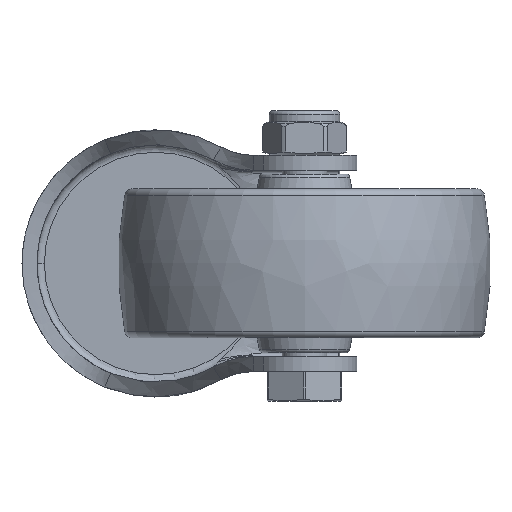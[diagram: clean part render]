
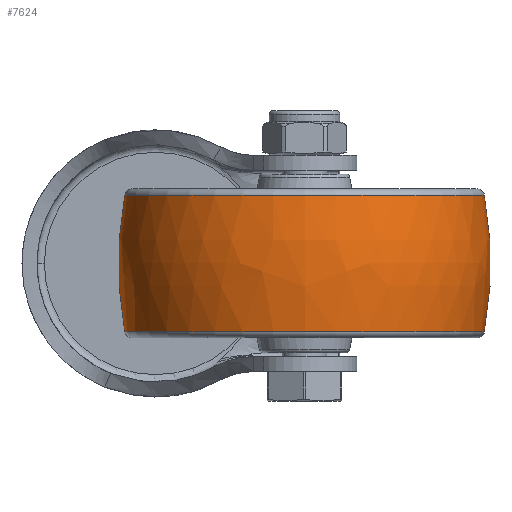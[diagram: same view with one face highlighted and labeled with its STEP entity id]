
A CAD part, front view. The second image highlights one B-rep face of the part: STEP entity #7624.
In plain terms, the highlighted free-form (B-spline) face has degree [3, 3] with [7, 4] control points.
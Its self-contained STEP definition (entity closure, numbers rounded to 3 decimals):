
#7250=CARTESIAN_POINT('',(0.,-25.,0.));
#7251=DIRECTION('',(0.,0.,1.));
#7252=DIRECTION('',(0.184,0.983,0.));
#7253=AXIS2_PLACEMENT_3D('',#7250,#7251,#7252);
#7255=CARTESIAN_POINT('',(0.,25.,0.));
#7256=DIRECTION('',(0.,0.,-1.));
#7257=DIRECTION('',(0.184,-0.983,0.));
#7258=AXIS2_PLACEMENT_3D('',#7255,#7256,#7257);
#7260=CARTESIAN_POINT('',(9.184,0.,0.));
#7261=DIRECTION('',(-1.,0.,0.));
#7262=DIRECTION('',(0.,1.,0.));
#7263=AXIS2_PLACEMENT_3D('',#7260,#7261,#7262);
#7285=CARTESIAN_POINT('',(-9.184,0.,0.));
#7286=DIRECTION('',(-1.,0.,0.));
#7287=DIRECTION('',(0.,1.,0.));
#7288=AXIS2_PLACEMENT_3D('',#7285,#7286,#7287);
#7425=CARTESIAN_POINT('',(9.184,24.149,0.));
#7427=VERTEX_POINT('',#7425);
#7428=CARTESIAN_POINT('',(-9.184,24.149,0.));
#7429=VERTEX_POINT('',#7428);
#7433=CARTESIAN_POINT('',(9.184,-24.149,0.));
#7435=VERTEX_POINT('',#7433);
#7436=CARTESIAN_POINT('',(-9.184,-24.149,0.));
#7437=VERTEX_POINT('',#7436);
#7586=CARTESIAN_POINT('',(-9.547,-24.033,
1.512));
#7587=CARTESIAN_POINT('',(-3.222,-25.26,
1.589));
#7588=CARTESIAN_POINT('',(3.222,-25.26,1.589));
#7589=CARTESIAN_POINT('',(9.547,-24.033,1.512));
#7590=CARTESIAN_POINT('',(-9.547,-24.963,
-13.278));
#7591=CARTESIAN_POINT('',(-3.222,-26.238,
-13.956));
#7592=CARTESIAN_POINT('',(3.222,-26.238,
-13.956));
#7593=CARTESIAN_POINT('',(9.547,-24.963,
-13.278));
#7594=CARTESIAN_POINT('',(-9.547,-14.819,
-24.08));
#7595=CARTESIAN_POINT('',(-3.222,-15.576,
-25.31));
#7596=CARTESIAN_POINT('',(3.222,-15.576,
-25.31));
#7597=CARTESIAN_POINT('',(9.547,-14.819,
-24.08));
#7598=CARTESIAN_POINT('',(-9.547,0.,-24.08));
#7599=CARTESIAN_POINT('',(-3.222,0.,-25.31));
#7600=CARTESIAN_POINT('',(3.222,0.,-25.31));
#7601=CARTESIAN_POINT('',(9.547,0.,-24.08));
#7602=CARTESIAN_POINT('',(-9.547,14.819,
-24.08));
#7603=CARTESIAN_POINT('',(-3.222,15.576,
-25.31));
#7604=CARTESIAN_POINT('',(3.222,15.576,-25.31));
#7605=CARTESIAN_POINT('',(9.547,14.819,-24.08));
#7606=CARTESIAN_POINT('',(-9.547,24.963,
-13.278));
#7607=CARTESIAN_POINT('',(-3.222,26.238,
-13.956));
#7608=CARTESIAN_POINT('',(3.222,26.238,-13.956));
#7609=CARTESIAN_POINT('',(9.547,24.963,-13.278));
#7610=CARTESIAN_POINT('',(-9.547,24.033,1.512));
#7611=CARTESIAN_POINT('',(-3.222,25.26,1.589));
#7612=CARTESIAN_POINT('',(3.222,25.26,1.589));
#7613=CARTESIAN_POINT('',(9.547,24.033,1.512));
#7614=(BOUNDED_SURFACE()B_SPLINE_SURFACE(3,3,((#7586,#7587,#7588,#7589),(#7590,
#7591,#7592,#7593),(#7594,#7595,#7596,#7597),(#7598,#7599,#7600,#7601),(#7602,
#7603,#7604,#7605),(#7606,#7607,#7608,#7609),(#7610,#7611,#7612,#7613)),
.UNSPECIFIED.,.F.,.F.,.F.)B_SPLINE_SURFACE_WITH_KNOTS((4,3,4),(4,4),(0.,1.,
2.),(0.,1.),.UNSPECIFIED.)GEOMETRIC_REPRESENTATION_ITEM()RATIONAL_B_SPLINE_SURFACE(((1.198,1.184,1.184,1.198),(
0.946,0.935,0.935,0.946),(
0.946,0.935,0.935,0.946),(
1.198,1.184,1.184,1.198),(
0.946,0.935,0.935,0.946),(
0.946,0.935,0.935,0.946),(
1.198,1.184,1.184,1.198)))REPRESENTATION_ITEM('')SURFACE());
#7616=ORIENTED_EDGE('',*,*,#7615,.T.);
#7618=ORIENTED_EDGE('',*,*,#7617,.T.);
#7620=ORIENTED_EDGE('',*,*,#7619,.F.);
#7621=ORIENTED_EDGE('',*,*,#7579,.F.);
#7622=EDGE_LOOP('',(#7616,#7618,#7620,#7621));
#7623=FACE_OUTER_BOUND('',#7622,.F.);
#7254=CIRCLE('',#7253,50.);
#7259=CIRCLE('',#7258,50.);
#7264=CIRCLE('',#7263,24.149);
#7289=CIRCLE('',#7288,24.149);
#7579=EDGE_CURVE('',#7427,#7435,#7264,.T.);
#7615=EDGE_CURVE('',#7427,#7429,#7254,.T.);
#7617=EDGE_CURVE('',#7429,#7437,#7289,.T.);
#7619=EDGE_CURVE('',#7435,#7437,#7259,.T.);
#7624=ADVANCED_FACE('',(#7623),#7614,.T.);
